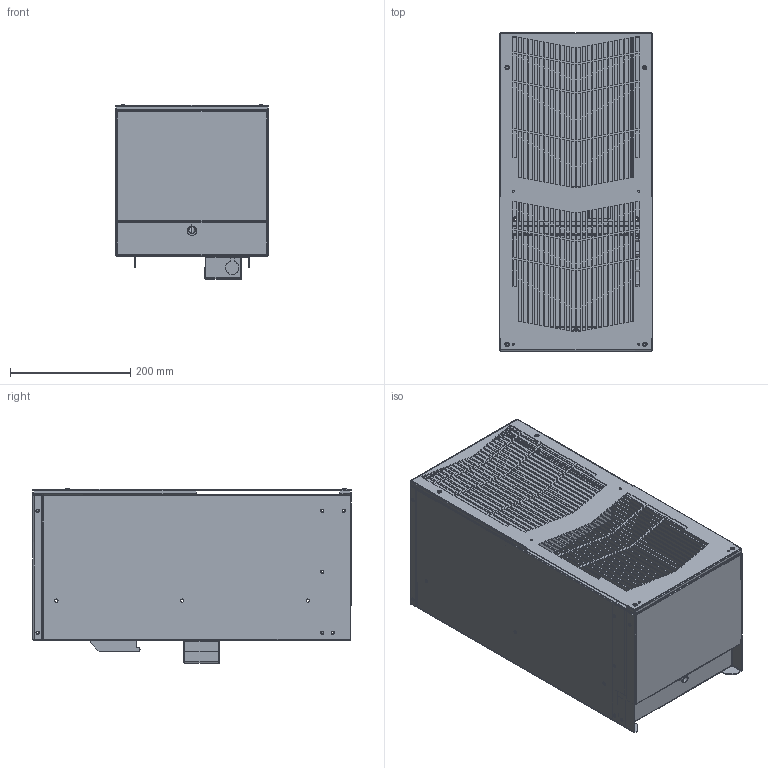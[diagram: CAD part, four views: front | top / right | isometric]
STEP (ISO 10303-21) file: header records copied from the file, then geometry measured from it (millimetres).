
FILE_DESCRIPTION (( 'STEP AP203' ), '1' );
FILE_NAME ('n2102x6g05x.STEP', '2017-06-14T16:25:19', ( '' ), ( '' ), 'SwSTEP 2.0', 'SolidWorks 2014', '' );
FILE_SCHEMA (( 'CONFIG_CONTROL_DESIGN' ));
Length unit declared in the file: inch
Products named in the file (21): 89112106; 89109505; 89112102; 89112105; 89112099; 89095669_89095669; 89050853; H60632004EB; 10-1015-208_PEM CLSS-024-1 ---N; 89135056; 89112098; 89112101; n2102x6g05x; 89105431; 89112104; 20-1037-00; 89112103; 89105056; 89109504; 20-1028-00; 10-1044-12
Assembly tree (31 placements, depth 3):
  n2102x6g05x
    89112101
      89112102
      89095669_89095669
      10-1015-208_PEM CLSS-024-1 ---N  x3
    89112103
      89112104
      89095669_89095669
      10-1015-208_PEM CLSS-024-1 ---N  x3
    89109505
      89109504
      10-1044-12
    89112098
      89112099
      H60632004EB  x4
    89105431
    20-1037-00
    89105056
    20-1028-00
    89112105
      89112106
      89095669_89095669  x2
    89050853
    89135056
Bounding box: 254.76 x 530.86 x 290.53 mm (x, y, z)
Volume: 3911910.8 mm3; surface area: 1825223.3 mm2
Topology: 30 solids, 30 shells, 3515 faces, 9503 edges, 6098 vertices
Faces by surface type: plane 2095, cylinder 1058, torus 180, cone 146, bspline 36
Entity records: 95258 total; most frequent: CARTESIAN_POINT 17403, DIRECTION 15723, ORIENTED_EDGE 15544, EDGE_CURVE 7772, LINE 5305, VECTOR 5305, AXIS2_PLACEMENT_3D 5209, VERTEX_POINT 4977
